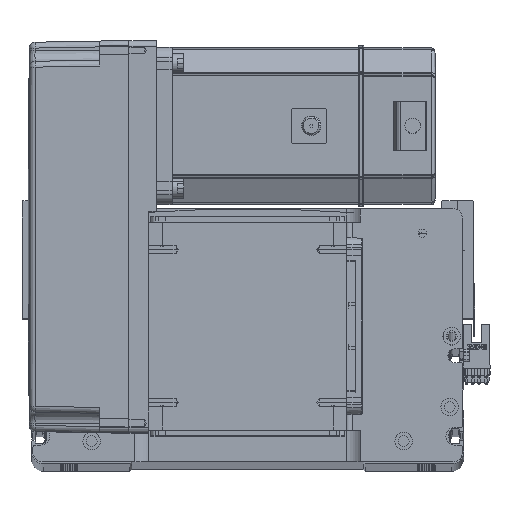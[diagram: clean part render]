
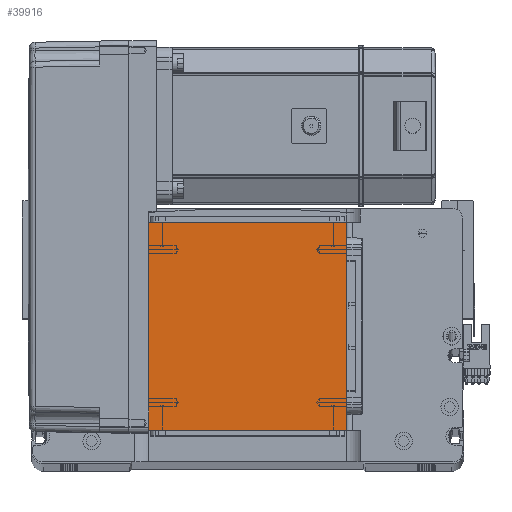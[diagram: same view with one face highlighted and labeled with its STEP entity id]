
A CAD part, top view. The second image highlights one B-rep face of the part: STEP entity #39916.
In plain terms, the highlighted planar face has unit normal (0, 0, 1).
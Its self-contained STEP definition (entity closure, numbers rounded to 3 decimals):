
#92 = EDGE_CURVE ( 'NONE', #24010, #48442, #41931, .T. ) ;
#523 = ORIENTED_EDGE ( 'NONE', *, *, #92, .T. ) ;
#631 = ORIENTED_EDGE ( 'NONE', *, *, #50814, .T. ) ;
#1942 = DIRECTION ( 'NONE',  ( 0., -1., 0. ) ) ;
#3988 = VECTOR ( 'NONE', #22726, 1000. ) ;
#7874 = CARTESIAN_POINT ( 'NONE',  ( -50.5, 16., 115. ) ) ;
#9013 = PLANE ( 'NONE',  #47379 ) ;
#9638 = VECTOR ( 'NONE', #17270, 1000. ) ;
#10970 = CARTESIAN_POINT ( 'NONE',  ( 50.5, 122., 115. ) ) ;
#11267 = VECTOR ( 'NONE', #42895, 1000. ) ;
#12612 = CARTESIAN_POINT ( 'NONE',  ( 50.5, 122., 115. ) ) ;
#13714 = CARTESIAN_POINT ( 'NONE',  ( -50.5, 122., 115. ) ) ;
#17270 = DIRECTION ( 'NONE',  ( -1., 0., 0. ) ) ;
#18396 = CARTESIAN_POINT ( 'NONE',  ( -50.5, 16., 115. ) ) ;
#19391 = FACE_OUTER_BOUND ( 'NONE', #24844, .T. ) ;
#21467 = CARTESIAN_POINT ( 'NONE',  ( 0., 0., 115. ) ) ;
#22726 = DIRECTION ( 'NONE',  ( 1., 0., 0. ) ) ;
#24010 = VERTEX_POINT ( 'NONE', #7874 ) ;
#24823 = ORIENTED_EDGE ( 'NONE', *, *, #53962, .T. ) ;
#24844 = EDGE_LOOP ( 'NONE', ( #40320, #523, #631, #24823 ) ) ;
#31877 = EDGE_CURVE ( 'NONE', #52753, #24010, #41955, .T. ) ;
#33494 = VERTEX_POINT ( 'NONE', #10970 ) ;
#39449 = LINE ( 'NONE', #51510, #9638 ) ;
#39462 = DIRECTION ( 'NONE',  ( 1., 0., 0. ) ) ;
#39793 = CARTESIAN_POINT ( 'NONE',  ( 50.5, 16., 115. ) ) ;
#39916 = ADVANCED_FACE ( 'NONE', ( #19391 ), #9013, .T. ) ;
#40320 = ORIENTED_EDGE ( 'NONE', *, *, #31877, .T. ) ;
#40966 = CARTESIAN_POINT ( 'NONE',  ( -50.5, 122., 115. ) ) ;
#41931 = LINE ( 'NONE', #18396, #3988 ) ;
#41955 = LINE ( 'NONE', #40966, #49335 ) ;
#42895 = DIRECTION ( 'NONE',  ( 0., 1., 0. ) ) ;
#43792 = LINE ( 'NONE', #12612, #11267 ) ;
#47379 = AXIS2_PLACEMENT_3D ( 'NONE', #21467, #55972, #39462 ) ;
#48442 = VERTEX_POINT ( 'NONE', #39793 ) ;
#49335 = VECTOR ( 'NONE', #1942, 1000. ) ;
#50814 = EDGE_CURVE ( 'NONE', #48442, #33494, #43792, .T. ) ;
#51510 = CARTESIAN_POINT ( 'NONE',  ( -50.5, 122., 115. ) ) ;
#52753 = VERTEX_POINT ( 'NONE', #13714 ) ;
#53962 = EDGE_CURVE ( 'NONE', #33494, #52753, #39449, .T. ) ;
#55972 = DIRECTION ( 'NONE',  ( 0., 0., 1. ) ) ;
